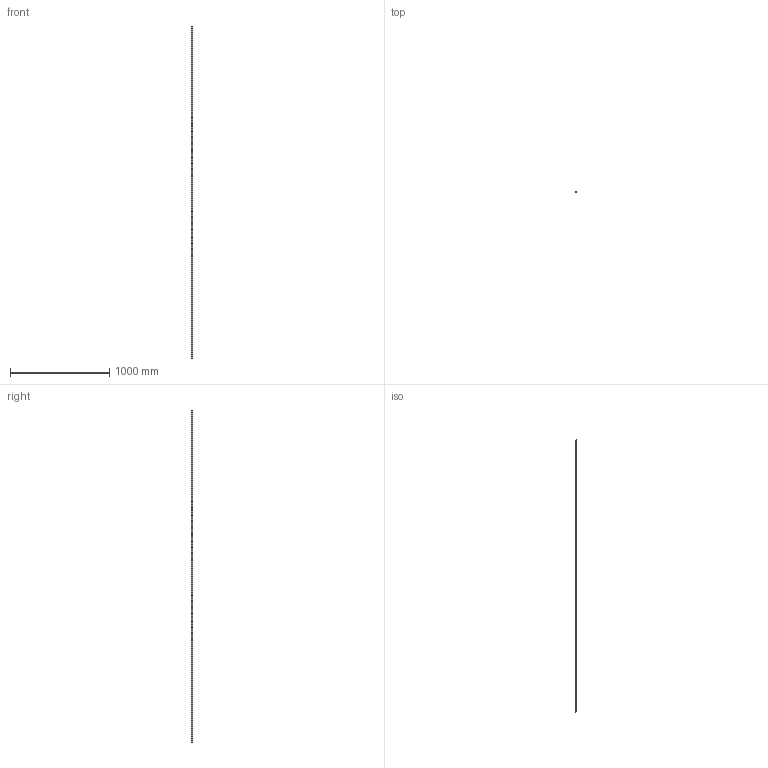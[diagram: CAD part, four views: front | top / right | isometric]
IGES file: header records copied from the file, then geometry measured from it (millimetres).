
Start section: SolidWorks IGES file using analytic representation for surfaces
Global section: file name: C:\Users\IanO\Desktop\L1016_v2\L1016.BL15_v2\L1016.BL15_v2_20190611_IGES\L1016.BL15-3340.igs; native system: SolidWorks 2017; preprocessor: SolidWorks 2017; author: IanO; date: 190612.123600; units: millimetre
Bounding box: 15 x 13 x 3340 mm (x, y, z)
Surface area: 203933.3 mm2 (no closed solid volume)
Topology: 0 solids, 0 shells, 306 faces, 8216 edges, 8216 vertices
Faces by surface type: revolution 228, bspline 78
